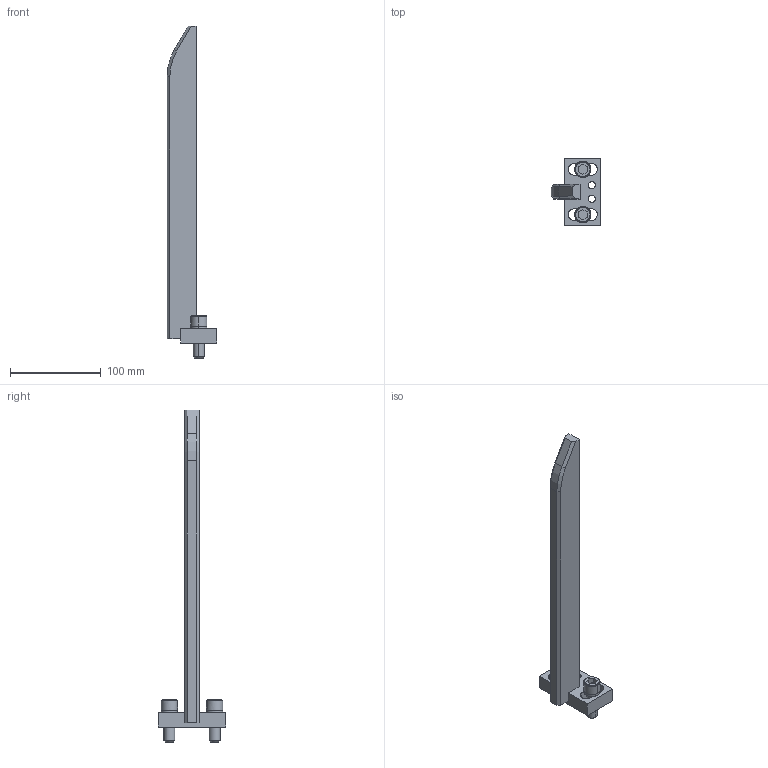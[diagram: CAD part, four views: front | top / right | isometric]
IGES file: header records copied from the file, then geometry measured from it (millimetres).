
Global section: file name: E:\UnigraphicsGraphicData\MISUMI_PRESS-PARTS\IGES\3d_ngna-350-40-m12_01520_r00.igs; native system: NX V5.0; preprocessor: UGS NX IGES V5.0; author: MISUMI; date: 20110105.162045; units: millimetre
Bounding box: 55 x 75 x 366.5 mm (x, y, z)
Surface area: 50026.3 mm2 (no closed solid volume)
Topology: 0 solids, 0 shells, 104 faces, 666 edges, 666 vertices
Faces by surface type: bspline 104
